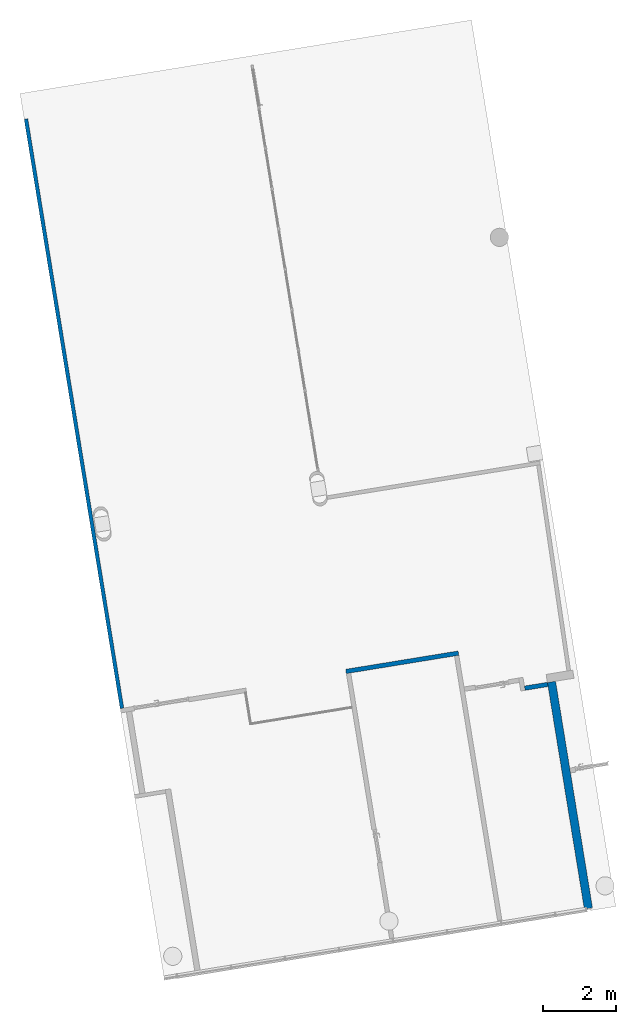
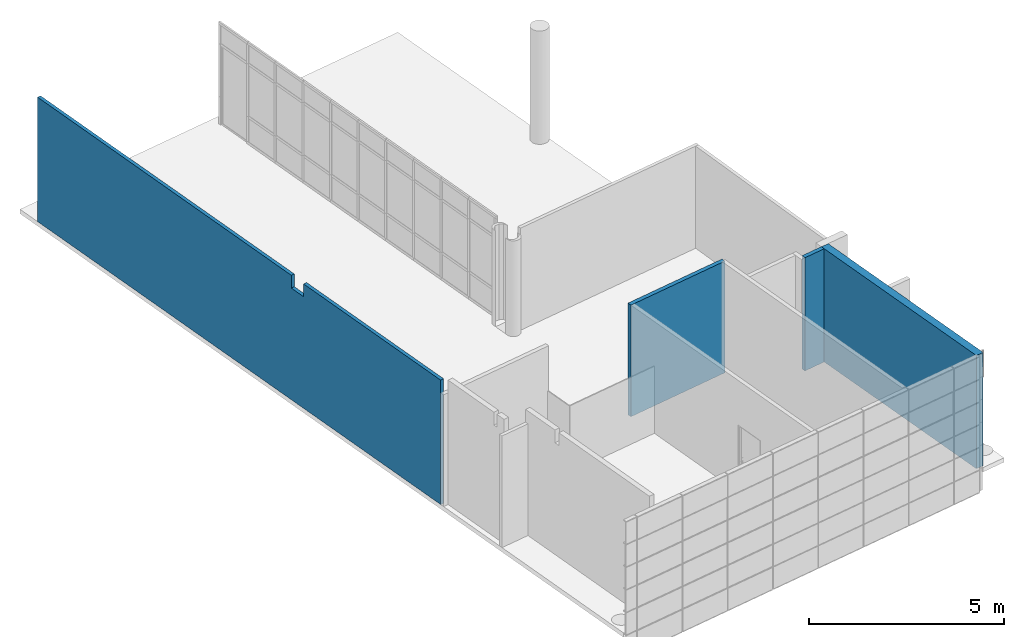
# One storey, part 11 of 18: 4 walls.
"""IFC2X3 building model written with IfcOpenShell, lengths in millimetres."""

from ifc_helpers import new_model, entity, si_unit, converted_unit, derived_unit, direction, frame, frame_2d, origin, origin_with_axes, place, context, subcontext, project, spatial, polyline, rectangle, extrude, clip, bounded_halfspace, material, layer, layer_set, layer_usage, type_object, element, save


model = new_model("IFC2X3")

# Units and contexts
model_context = context("Model", 3, precision=0.01, world=origin(), true_north=direction((6.12323399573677e-17, 1.0)))
plan_context = context("Plan", 3, precision=1e-05, world=origin_with_axes())
body_context = subcontext(model_context, "Body", "Model", "MODEL_VIEW")
ifc_project = project(units=[converted_unit("PLANEANGLEUNIT", "DEGREE", entity("IfcPositiveLengthMeasure", 0.0174532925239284), si_unit("PLANEANGLEUNIT", "RADIAN"), dimensions=[0, 0, 0, 0, 0, 0, 0]), si_unit("AREAUNIT", "SQUARE_METRE"), si_unit("LENGTHUNIT", "METRE", prefix="MILLI"), si_unit("MASSUNIT", "GRAM", prefix="KILO"), si_unit("POWERUNIT", "WATT"), si_unit("PRESSUREUNIT", "PASCAL", prefix="KILO"), si_unit("FORCEUNIT", "NEWTON", prefix="KILO"), si_unit("ELECTRICVOLTAGEUNIT", "VOLT"), si_unit("ELECTRICCURRENTUNIT", "AMPERE"), si_unit("THERMODYNAMICTEMPERATUREUNIT", "DEGREE_CELSIUS"), si_unit("TIMEUNIT", "SECOND"), si_unit("VOLUMEUNIT", "CUBIC_METRE"), derived_unit("LINEARVELOCITYUNIT", [(si_unit("LENGTHUNIT", "METRE"), 1), (si_unit("TIMEUNIT", "SECOND"), -1)]), derived_unit("VOLUMETRICFLOWRATEUNIT", [(si_unit("VOLUMEUNIT", "CUBIC_METRE"), 1), (si_unit("TIMEUNIT", "SECOND"), -1)]), derived_unit("THERMALTRANSMITTANCEUNIT", [(si_unit("POWERUNIT", "WATT"), 1), (si_unit("THERMODYNAMICTEMPERATUREUNIT", "KELVIN"), -1), (si_unit("AREAUNIT", "SQUARE_METRE"), -1)]), derived_unit("SOUNDPRESSUREUNIT", [(si_unit("PRESSUREUNIT", "PASCAL"), 1)])], contexts=[model_context, plan_context])

# Site, building, storey
site_placement = place(None, frame((-305029.896016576, -232111.759730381, 0.0), z_axis=(0.0, 0.0, 1.0), x_axis=(-0.160806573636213, 0.986985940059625, 0.0)))
site = spatial("IfcSite", under=ifc_project, at=site_placement, Name="Default", CompositionType="ELEMENT")
building_placement = place(site_placement, frame((0.0, 0.0, 0.0), z_axis=(0.0, 0.0, 1.0), x_axis=(1.0, -2.77555756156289e-17, 0.0)))
building = spatial("IfcBuilding", under=site, at=building_placement, Name="br001-a-200-1-0001", CompositionType="ELEMENT")
storey_placement = place(building_placement, frame((0.0, 0.0, 55500.0), z_axis=(0.0, 0.0, 1.0), x_axis=(1.0, -2.77555756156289e-17, 0.0)))
storey = spatial("IfcBuildingStorey", under=building, at=storey_placement, Name="H02-Nivå F-3,5 m", CompositionType="ELEMENT", Elevation=55500.0)

# Walls
ifc_material = material(Name="_NSW Standard")
ifc_layer_1 = layer(ifc_material, 120.0)
ifc_layer_set_1 = layer_set([ifc_layer_1], Name="Basic Wall:A242 - Standard 120")
ifc_layer_usage_1 = layer_usage(ifc_layer_set_1, "AXIS2", "NEGATIVE", 60.0)
wall_type_1 = type_object("IfcWallType", Name="Basic Wall:A242 - Standard 120", PredefinedType="STANDARD", material=ifc_layer_set_1)
wall_1_placement = place(storey_placement, frame((1178377.59858442, -734102.878367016, 0.0), z_axis=(0.0, 0.0, 1.0), x_axis=(2.77555756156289e-17, 1.0, 0.0)))
element("IfcWallStandardCase", 1, at=wall_1_placement, inside=storey, type_object=wall_type_1, material=ifc_layer_usage_1, Name="Basic Wall:A242 - Standard 120", ObjectType="Basic Wall:A242 - Standard 120", context=body_context, shape_type="Clipping", body=[
    clip(extrude(rectangle(XDim=637.500000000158, YDim=120.000000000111, at=frame_2d((318.750000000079, 2.84963164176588e-11), x_axis=(-1.0, 0.0))), origin(), (0.0, 0.0, 1.0), 3550.00000000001), bounded_halfspace(frame((0.0, -60.0, 3550.0), z_axis=(0.0, 0.0, -1.0), x_axis=(0.0, -1.0, 0.0)), True, frame((0.0, -60.0, 3550.0)), polyline([(0.0, 0.0), (637.500000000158, 0.0), (637.500000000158, 120.0), (0.0, 120.0), (0.0, 7.4999999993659), (0.0, 0.0)]))),
])
ifc_layer_usage_2 = layer_usage(ifc_layer_set_1, "AXIS2", "NEGATIVE", 60.0)
wall_2_placement = place(storey_placement, frame((1179617.59858442, -731826.378367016, 0.0), z_axis=(0.0, 0.0, 1.0), x_axis=(2.77555756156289e-17, 1.0, 0.0)))
element("IfcWallStandardCase", 2, at=wall_2_placement, inside=storey, type_object=wall_type_1, material=ifc_layer_usage_2, Name="Basic Wall:A242 - Standard 120", ObjectType="Basic Wall:A242 - Standard 120", context=body_context, shape_type="SweptSolid", body=[
    extrude(rectangle(XDim=3119.99999999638, YDim=120.000000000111, at=frame_2d((1559.99999999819, 0.0), x_axis=(-1.0, 0.0))), origin(), (0.0, 0.0, 1.0), 3500.0),
])
ifc_layer_2 = layer(ifc_material, 225.0)
ifc_layer_set_2 = layer_set([ifc_layer_2], Name="Basic Wall:A242 - Standard 225")
ifc_layer_usage_3 = layer_usage(ifc_layer_set_2, "AXIS2", "NEGATIVE", 112.5)
wall_type_2 = type_object("IfcWallType", Name="Basic Wall:A242 - Standard 225", PredefinedType="STANDARD", material=ifc_layer_set_2)
wall_3_placement = place(storey_placement, frame((1178430.09858442, -734215.378367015, 0.0), z_axis=(0.0, 0.0, 1.0), x_axis=(-1.0, 2.77555756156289e-17, 0.0)))
element("IfcWallStandardCase", 3, at=wall_3_placement, inside=storey, type_object=wall_type_2, material=ifc_layer_usage_3, Name="Basic Wall:A242 - Standard 225", ObjectType="Basic Wall:A242 - Standard 225", context=body_context, shape_type="Clipping", body=[
    clip(extrude(rectangle(XDim=6289.50000000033, YDim=225.000000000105, at=frame_2d((3144.75000000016, -2.63611354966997e-11), x_axis=(-1.0, 0.0))), origin(), (0.0, 0.0, 1.0), 3550.00000000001), bounded_halfspace(frame((0.0, -112.499999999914, 3550.0), z_axis=(0.0, 0.0, -1.0), x_axis=(-1.0, 0.0, 0.0)), True, frame((0.0, -112.499999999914, 3550.0)), polyline([(0.0, 0.0), (112.500000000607, 0.0), (6227.49525909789, 0.0), (6227.49525909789, 185.500000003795), (6289.50000000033, 185.500000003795), (6289.50000000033, 225.0), (6227.49525909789, 225.0), (2547.0, 225.0), (2412.0, 225.0), (0.0, 225.0), (0.0, 0.0)]))),
])
ifc_layer_3 = layer(ifc_material, 100.0)
ifc_layer_set_3 = layer_set([ifc_layer_3], Name="Basic Wall:A242 - Standard 100")
ifc_layer_usage_4 = layer_usage(ifc_layer_set_3, "AXIS2", "NEGATIVE", 50.0)
wall_type_3 = type_object("IfcWallType", Name="Basic Wall:A242 - Standard 100", PredefinedType="STANDARD", material=ifc_layer_set_3)
wall_4_placement = place(storey_placement, frame((1179607.59858442, -722487.07943924, 0.0), z_axis=(0.0, 0.0, 1.0), x_axis=(1.0, -2.77555756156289e-17, 0.0)))
element("IfcWallStandardCase", 4, at=wall_4_placement, inside=storey, type_object=wall_type_3, material=ifc_layer_usage_4, Name="Basic Wall:A242 - Standard 100", ObjectType="Basic Wall:A242 - Standard 100", context=body_context, shape_type="Clipping", body=[
    clip(extrude(rectangle(XDim=16356.3190595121, YDim=100.000000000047, at=frame_2d((8178.15952975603, 0.0), x_axis=(-1.0, 0.0))), origin(), (0.0, 0.0, 1.0), 3900.00000000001), bounded_halfspace(frame((5563.08516369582, 50.0, 3500.0), z_axis=(0.0, 0.0, -1.0), x_axis=(1.0, 0.0, 0.0)), True, frame((5563.08516369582, 50.0, 3500.0), z_axis=(0.0, 0.0, -1.0), x_axis=(1.0, 0.0, 0.0)), polyline([(0.0, 0.0), (498.0, 0.0), (498.0, 100.0), (0.0, 100.0), (0.0, 0.0)]))),
])

save(model, "model.ifc")
